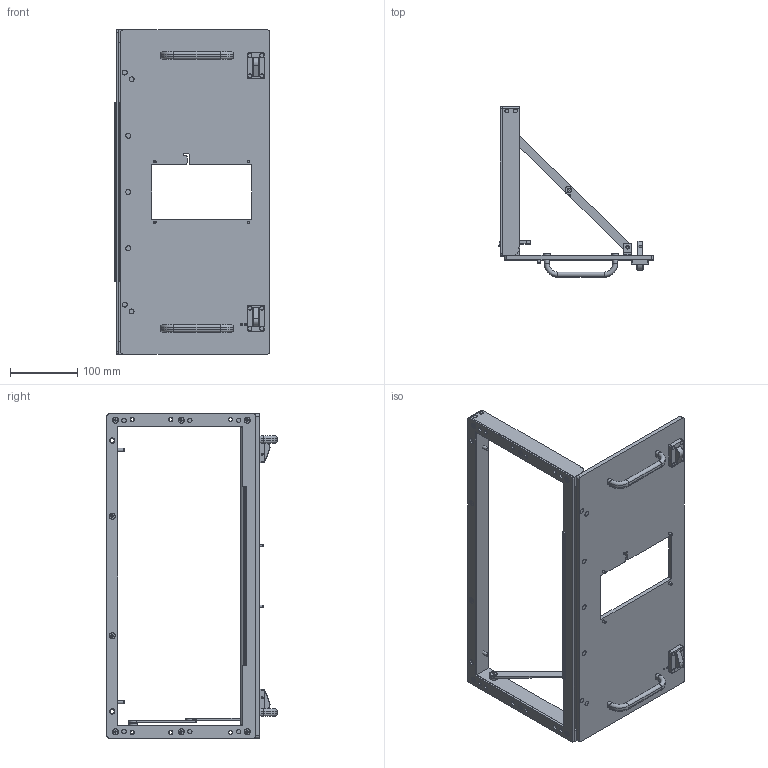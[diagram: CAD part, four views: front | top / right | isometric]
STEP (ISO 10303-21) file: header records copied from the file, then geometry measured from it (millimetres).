
FILE_DESCRIPTION((''),'2;1');
FILE_NAME('C:\old_Drawings\shrinkwrapped website .stp files\561355 open-STP.stp','2011-05-23T13:25:48',('GaryRobinson'),(''),'Autodesk Inventor 2011','Autodesk Inventor 2011','');
FILE_SCHEMA(('CONFIG_CONTROL_DESIGN'));
Length unit declared in the file: inch
Products named in the file (1): 561355 open-STP
Bounding box: 230.79 x 253.21 x 482.6 mm (x, y, z)
Surface area: 450303 mm2 (no closed solid volume)
Topology: 0 solids, 72 shells, 1171 faces, 2766 edges, 1778 vertices
Faces by surface type: plane 586, cylinder 457, cone 106, torus 16, bspline 6
Full cylindrical faces by diameter (mm): 0.005 x2, 0.025 x2, 1.588 x1, 2.845 x8, 3.175 x8, 3.505 x15, 3.81 x11, 4.166 x10, 4.496 x8, 4.648 x2, 4.763 x2, 4.826 x7, 5.105 x6, 5.207 x2, 5.309 x4, 5.74 x4, 5.953 x4, 6.325 x1, 6.337 x2, 6.35 x16, 6.426 x4, 7.938 x4, 8.687 x1, 8.731 x7, 9.473 x4, 9.525 x2, 9.931 x2, 12.7 x8, 13.097 x2, 19.05 x2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
Entity records: 38331 total; most frequent: CARTESIAN_POINT 10198, DIRECTION 5772, ORIENTED_EDGE 4874, EDGE_CURVE 2437, AXIS2_PLACEMENT_3D 2195, VERTEX_POINT 1711, EDGE_LOOP 1668, VECTOR 1382
